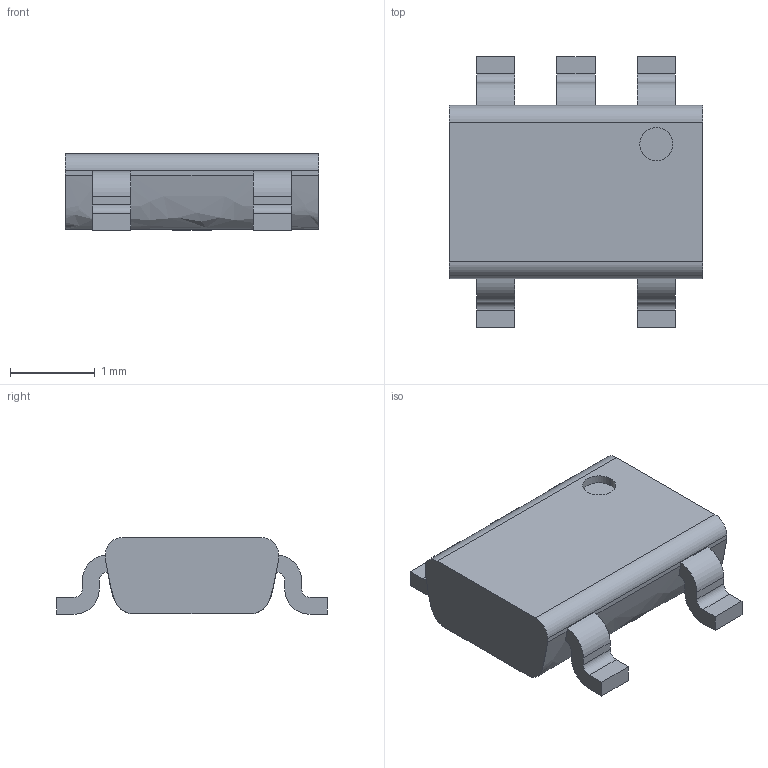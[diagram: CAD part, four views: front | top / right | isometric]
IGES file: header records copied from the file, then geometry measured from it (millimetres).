
Start section: 3D InterOp IGES (Version 21 0 3), Spatial Corp. Copyright (c) 1999-2007.
Global section: file name: export0.igs; native system: Spatial Corp.; preprocessor: 3D InterOp ACIS/IGES; author: Noname; organization: Noname; date: 20130306.161016; units: millimetre
Bounding box: 3 x 3.2 x 0.91 mm (x, y, z)
Surface area: 25.7 mm2 (no closed solid volume)
Topology: 0 solids, 0 shells, 75 faces, 428 edges, 428 vertices
Faces by surface type: extrusion 51, revolution 24
